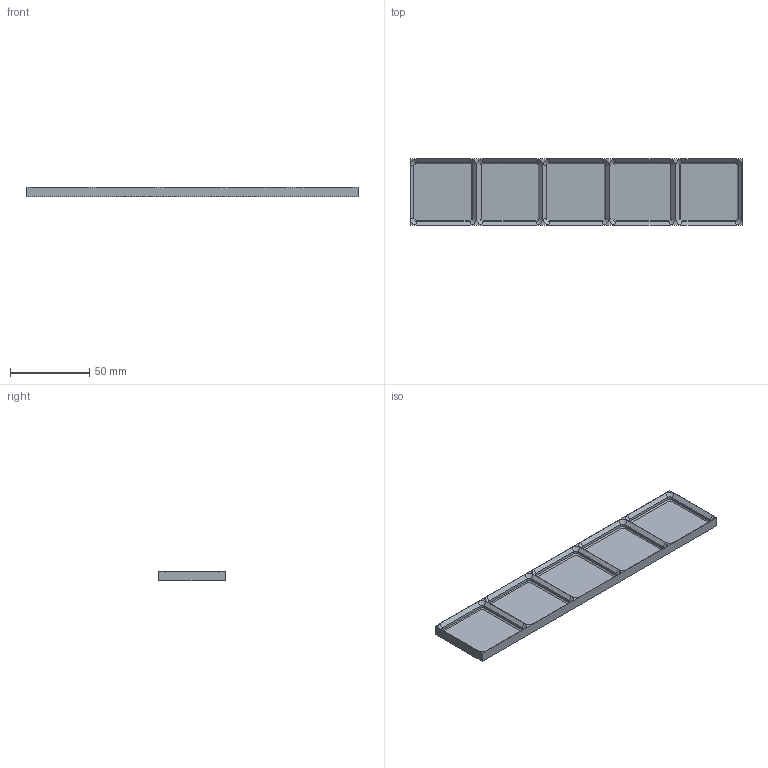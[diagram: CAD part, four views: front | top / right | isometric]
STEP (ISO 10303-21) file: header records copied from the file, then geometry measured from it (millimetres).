
FILE_DESCRIPTION(('Open CASCADE Model'),'2;1');
FILE_NAME('Open CASCADE Shape Model','2026-11-03T10:34:22',('Author'),( 'Open CASCADE'),'Open CASCADE STEP processor 8.0','build123d', 'Unknown');
FILE_SCHEMA(('AUTOMOTIVE_DESIGN { 1 0 10303 214 1 1 1 1 }'));
Length unit declared in the file: millimetre
Products named in the file (1): COMPOUND
Bounding box: 210 x 42 x 6.25 mm (x, y, z)
Volume: 20093.9 mm3; surface area: 23065.2 mm2
Topology: 1 solids, 1 shells, 171 faces, 372 edges, 208 vertices
Faces by surface type: plane 91, cylinder 40, cone 40
Entity records: 9072 total; most frequent: CARTESIAN_POINT 1956, DIRECTION 1200, ORIENTED_EDGE 744, PCURVE 744, DEFINITIONAL_REPRESENTATION 744, LINE 636, VECTOR 636, EDGE_CURVE 372
